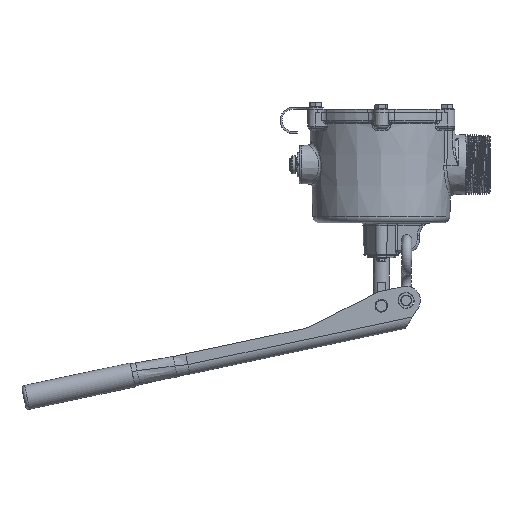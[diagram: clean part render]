
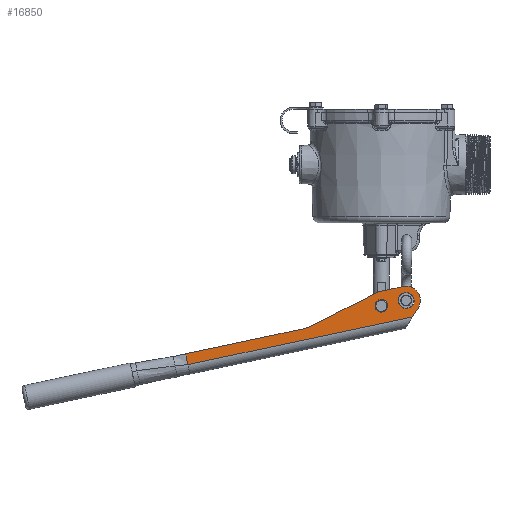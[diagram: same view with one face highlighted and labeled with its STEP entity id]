
A CAD part, left-side view. The second image highlights one B-rep face of the part: STEP entity #16850.
In plain terms, the highlighted planar face has unit normal (-1, 0, 0).
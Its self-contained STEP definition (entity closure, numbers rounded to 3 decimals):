
#2050=LINE('',#51115,#2862);
#2051=LINE('',#51117,#2863);
#2052=LINE('',#51121,#2864);
#2053=LINE('',#51123,#2865);
#2054=LINE('',#51125,#2866);
#2055=LINE('',#51127,#2867);
#2056=LINE('',#51128,#2868);
#2862=VECTOR('',#21910,0.394);
#2863=VECTOR('',#21911,0.394);
#2864=VECTOR('',#21914,0.394);
#2865=VECTOR('',#21915,0.394);
#2866=VECTOR('',#21916,0.394);
#2867=VECTOR('',#21917,0.394);
#2868=VECTOR('',#21918,0.394);
#3310=FACE_BOUND('',#5157,.T.);
#3311=FACE_BOUND('',#5158,.T.);
#4170=FACE_OUTER_BOUND('',#5156,.T.);
#5156=EDGE_LOOP('',(#14309,#14310,#14311,#14312,#14313,#14314,#14315,#14316,
#14317));
#5157=EDGE_LOOP('',(#14318));
#5158=EDGE_LOOP('',(#14319));
#5857=CIRCLE('',#18320,0.56);
#5858=CIRCLE('',#18321,2.);
#5859=CIRCLE('',#18322,0.315);
#5860=CIRCLE('',#18323,0.25);
#7332=VERTEX_POINT('',#51111);
#7333=VERTEX_POINT('',#51112);
#7334=VERTEX_POINT('',#51114);
#7335=VERTEX_POINT('',#51116);
#7336=VERTEX_POINT('',#51118);
#7337=VERTEX_POINT('',#51120);
#7338=VERTEX_POINT('',#51122);
#7339=VERTEX_POINT('',#51124);
#7340=VERTEX_POINT('',#51126);
#7341=VERTEX_POINT('',#51129);
#7342=VERTEX_POINT('',#51131);
#9684=EDGE_CURVE('',#7332,#7333,#5857,.T.);
#9685=EDGE_CURVE('',#7333,#7334,#2050,.T.);
#9686=EDGE_CURVE('',#7334,#7335,#2051,.T.);
#9687=EDGE_CURVE('',#7335,#7336,#5858,.T.);
#9688=EDGE_CURVE('',#7336,#7337,#2052,.T.);
#9689=EDGE_CURVE('',#7337,#7338,#2053,.T.);
#9690=EDGE_CURVE('',#7338,#7339,#2054,.T.);
#9691=EDGE_CURVE('',#7340,#7339,#2055,.T.);
#9692=EDGE_CURVE('',#7340,#7332,#2056,.T.);
#9693=EDGE_CURVE('',#7341,#7341,#5859,.T.);
#9694=EDGE_CURVE('',#7342,#7342,#5860,.T.);
#14309=ORIENTED_EDGE('',*,*,#9684,.T.);
#14310=ORIENTED_EDGE('',*,*,#9685,.T.);
#14311=ORIENTED_EDGE('',*,*,#9686,.T.);
#14312=ORIENTED_EDGE('',*,*,#9687,.T.);
#14313=ORIENTED_EDGE('',*,*,#9688,.T.);
#14314=ORIENTED_EDGE('',*,*,#9689,.T.);
#14315=ORIENTED_EDGE('',*,*,#9690,.T.);
#14316=ORIENTED_EDGE('',*,*,#9691,.F.);
#14317=ORIENTED_EDGE('',*,*,#9692,.T.);
#14318=ORIENTED_EDGE('',*,*,#9693,.T.);
#14319=ORIENTED_EDGE('',*,*,#9694,.T.);
#15052=PLANE('',#18319);
#16850=ADVANCED_FACE('',(#4170,#3310,#3311),#15052,.T.);
#18319=AXIS2_PLACEMENT_3D('',#51110,#21906,#21907);
#18320=AXIS2_PLACEMENT_3D('',#51113,#21908,#21909);
#18321=AXIS2_PLACEMENT_3D('',#51119,#21912,#21913);
#18322=AXIS2_PLACEMENT_3D('',#51130,#21919,#21920);
#18323=AXIS2_PLACEMENT_3D('',#51132,#21921,#21922);
#21906=DIRECTION('center_axis',(-1.,0.,0.));
#21907=DIRECTION('ref_axis',(0.,-0.978,0.208));
#21908=DIRECTION('center_axis',(-1.,0.,0.));
#21909=DIRECTION('ref_axis',(0.,-0.208,-0.978));
#21910=DIRECTION('',(0.,0.978,-0.208));
#21911=DIRECTION('',(0.,0.891,-0.454));
#21912=DIRECTION('center_axis',(1.,0.,0.));
#21913=DIRECTION('ref_axis',(0.,-0.454,-0.891));
#21914=DIRECTION('',(0.,0.978,-0.208));
#21915=DIRECTION('',(0.,-0.208,-0.978));
#21916=DIRECTION('',(0.,-0.208,-0.978));
#21917=DIRECTION('',(0.,0.978,-0.208));
#21918=DIRECTION('',(0.,-0.545,0.839));
#21919=DIRECTION('center_axis',(1.,0.,0.));
#21920=DIRECTION('ref_axis',(0.,-0.978,0.208));
#21921=DIRECTION('center_axis',(1.,0.,0.));
#21922=DIRECTION('ref_axis',(0.,0.743,-0.669));
#51110=CARTESIAN_POINT('Origin',(-0.384,-1.41,-6.336));
#51111=CARTESIAN_POINT('',(-0.384,-1.448,-7.305));
#51112=CARTESIAN_POINT('',(-0.384,-0.862,-6.452));
#51113=CARTESIAN_POINT('Origin',(-0.384,-0.978,
-7.));
#51114=CARTESIAN_POINT('',(-0.384,0.116,-6.66));
#51115=CARTESIAN_POINT('',(-0.384,-1.41,-6.336));
#51116=CARTESIAN_POINT('',(-0.384,2.67,-7.961));
#51117=CARTESIAN_POINT('',(-0.384,-0.555,-6.318));
#51118=CARTESIAN_POINT('',(-0.384,3.163,-8.135));
#51119=CARTESIAN_POINT('Origin',(-0.384,3.578,-6.179));
#51120=CARTESIAN_POINT('',(-0.384,7.715,-9.102));
#51121=CARTESIAN_POINT('',(-0.384,0.792,-7.632));
#51122=CARTESIAN_POINT('',(-0.384,7.668,-9.323));
#51123=CARTESIAN_POINT('',(-0.384,7.883,-8.31));
#51124=CARTESIAN_POINT('',(-0.384,7.624,-9.528));
#51125=CARTESIAN_POINT('',(-0.384,7.883,-8.31));
#51126=CARTESIAN_POINT('',(-0.384,-1.225,-7.648));
#51127=CARTESIAN_POINT('',(-0.384,-1.668,-7.554));
#51128=CARTESIAN_POINT('',(-0.384,-1.404,-7.373));
#51129=CARTESIAN_POINT('',(-0.384,-0.671,-7.065));
#51130=CARTESIAN_POINT('Origin',(-0.384,-0.978,
-7.));
#51131=CARTESIAN_POINT('',(-0.384,-0.186,-7.04));
#51132=CARTESIAN_POINT('Origin',(-0.384,0.,
-7.208));
